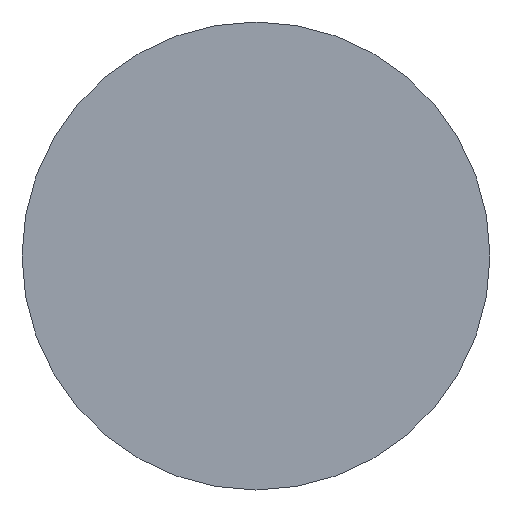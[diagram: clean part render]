
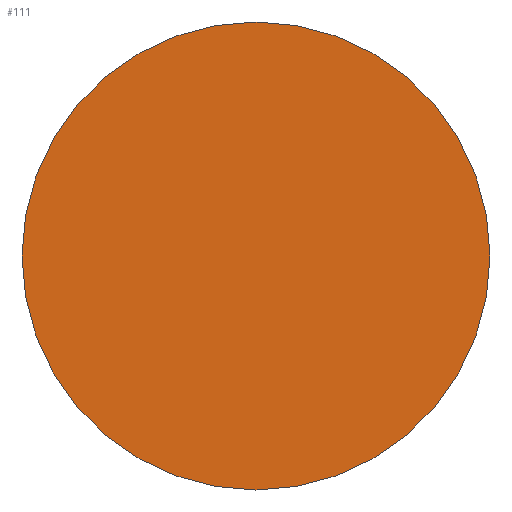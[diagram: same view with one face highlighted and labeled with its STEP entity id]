
A CAD part, left-side view. The second image highlights one B-rep face of the part: STEP entity #111.
In plain terms, the highlighted planar face has unit normal (-1, 0, 0).
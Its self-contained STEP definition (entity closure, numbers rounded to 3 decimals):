
#8 = DIRECTION ( 'NONE',  ( 0., 0., 1. ) ) ;
#9 = DIRECTION ( 'NONE',  ( -1., 0., 0. ) ) ;
#10 = PLANE ( 'NONE',  #62 ) ;
#12 = VERTEX_POINT ( 'NONE', #21 ) ;
#13 = DIRECTION ( 'NONE',  ( 0., 0., 1. ) ) ;
#14 = DIRECTION ( 'NONE',  ( -1., 0., 0. ) ) ;
#16 = CARTESIAN_POINT ( 'NONE',  ( -292., 0., 0. ) ) ;
#17 = DIRECTION ( 'NONE',  ( 0., 0., 1. ) ) ;
#18 = DIRECTION ( 'NONE',  ( -1., 0., 0. ) ) ;
#20 = CARTESIAN_POINT ( 'NONE',  ( -292., 0., 0. ) ) ;
#21 = CARTESIAN_POINT ( 'NONE',  ( -292., 0., 5.5 ) ) ;
#23 = VERTEX_POINT ( 'NONE', #37 ) ;
#27 = CARTESIAN_POINT ( 'NONE',  ( -292., 0., 0. ) ) ;
#37 = CARTESIAN_POINT ( 'NONE',  ( -292., 0., -5.5 ) ) ;
#52 = AXIS2_PLACEMENT_3D ( 'NONE', #16, #14, #13 ) ;
#54 = EDGE_CURVE ( 'NONE', #23, #12, #101, .T. ) ;
#60 = AXIS2_PLACEMENT_3D ( 'NONE', #27, #18, #17 ) ;
#62 = AXIS2_PLACEMENT_3D ( 'NONE', #20, #9, #8 ) ;
#63 = EDGE_CURVE ( 'NONE', #12, #23, #99, .T. ) ;
#75 = ORIENTED_EDGE ( 'NONE', *, *, #54, .T. ) ;
#81 = EDGE_LOOP ( 'NONE', ( #84, #75 ) ) ;
#82 = FACE_OUTER_BOUND ( 'NONE', #81, .T. ) ;
#84 = ORIENTED_EDGE ( 'NONE', *, *, #63, .T. ) ;
#99 = CIRCLE ( 'NONE', #52, 5.5 ) ;
#101 = CIRCLE ( 'NONE', #60, 5.5 ) ;
#111 = ADVANCED_FACE ( 'NONE', ( #82 ), #10, .T. ) ;
